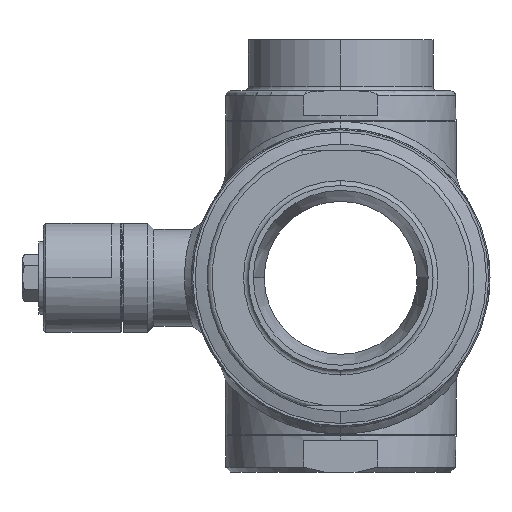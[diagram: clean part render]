
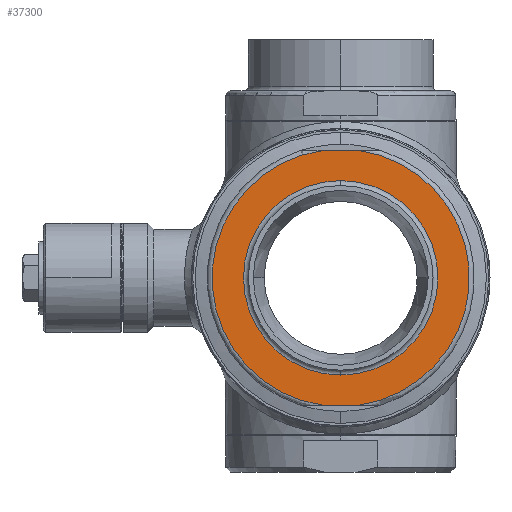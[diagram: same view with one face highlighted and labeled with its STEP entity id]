
A CAD part, left-side view. The second image highlights one B-rep face of the part: STEP entity #37300.
In plain terms, the highlighted planar face has unit normal (-1, 0, 0).
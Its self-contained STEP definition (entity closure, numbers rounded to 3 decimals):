
#3217=CARTESIAN_POINT('',(-77.,0.,0.));
#3218=DIRECTION('',(-1.,0.,0.));
#3219=DIRECTION('',(0.,0.,1.));
#3220=AXIS2_PLACEMENT_3D('',#3217,#3218,#3219);
#3233=DIRECTION('',(0.,1.,0.));
#3234=VECTOR('',#3233,14.526);
#3235=CARTESIAN_POINT('',(-77.,-7.263,52.5));
#3236=LINE('',#3235,#3234);
#3240=DIRECTION('',(0.,1.,0.));
#3241=VECTOR('',#3240,14.526);
#3242=CARTESIAN_POINT('',(-77.,-7.263,-52.5));
#3243=LINE('',#3242,#3241);
#3255=CARTESIAN_POINT('',(-77.,0.,0.));
#3256=DIRECTION('',(-1.,0.,0.));
#3257=DIRECTION('',(0.,0.137,0.991));
#3258=AXIS2_PLACEMENT_3D('',#3255,#3256,#3257);
#3298=CARTESIAN_POINT('',(-77.,7.263,-52.5));
#3330=CARTESIAN_POINT('',(-77.,-7.263,-52.5));
#3356=CARTESIAN_POINT('',(-77.,0.,0.));
#3357=DIRECTION('',(-1.,0.,0.));
#3358=DIRECTION('',(0.,-0.137,-0.991));
#3359=AXIS2_PLACEMENT_3D('',#3356,#3357,#3358);
#3399=CARTESIAN_POINT('',(-77.,-7.263,52.5));
#3431=CARTESIAN_POINT('',(-77.,7.263,52.5));
#3541=CARTESIAN_POINT('',(-77.,0.,0.));
#3542=DIRECTION('',(-1.,0.,0.));
#3543=DIRECTION('',(0.,0.,-1.));
#3544=AXIS2_PLACEMENT_3D('',#3541,#3542,#3543);
#34266=CARTESIAN_POINT('',(-77.,0.,40.05));
#34267=CARTESIAN_POINT('',(-77.,0.,-40.05));
#34268=VERTEX_POINT('',#34266);
#34269=VERTEX_POINT('',#34267);
#34275=VERTEX_POINT('',#3298);
#34277=VERTEX_POINT('',#3330);
#34279=VERTEX_POINT('',#3399);
#34281=VERTEX_POINT('',#3431);
#37280=CARTESIAN_POINT('',(-77.,0.,0.));
#37281=DIRECTION('',(-1.,0.,0.));
#37282=DIRECTION('',(0.,1.,0.));
#37283=AXIS2_PLACEMENT_3D('',#37280,#37281,#37282);
#37284=PLANE('',#37283);
#37286=ORIENTED_EDGE('',*,*,#37285,.F.);
#37288=ORIENTED_EDGE('',*,*,#37287,.F.);
#37290=ORIENTED_EDGE('',*,*,#37289,.F.);
#37292=ORIENTED_EDGE('',*,*,#37291,.T.);
#37293=EDGE_LOOP('',(#37286,#37288,#37290,#37292));
#37294=FACE_OUTER_BOUND('',#37293,.F.);
#37295=ORIENTED_EDGE('',*,*,#37270,.T.);
#37297=ORIENTED_EDGE('',*,*,#37296,.T.);
#37298=EDGE_LOOP('',(#37295,#37297));
#37299=FACE_BOUND('',#37298,.F.);
#37300=ADVANCED_FACE('',(#37294,#37299),#37284,.T.);
#3221=CIRCLE('',#3220,40.05);
#3259=CIRCLE('',#3258,53.);
#3360=CIRCLE('',#3359,53.);
#3545=CIRCLE('',#3544,40.05);
#37270=EDGE_CURVE('',#34268,#34269,#3221,.T.);
#37285=EDGE_CURVE('',#34281,#34275,#3259,.T.);
#37287=EDGE_CURVE('',#34279,#34281,#3236,.T.);
#37289=EDGE_CURVE('',#34277,#34279,#3360,.T.);
#37291=EDGE_CURVE('',#34277,#34275,#3243,.T.);
#37296=EDGE_CURVE('',#34269,#34268,#3545,.T.);
